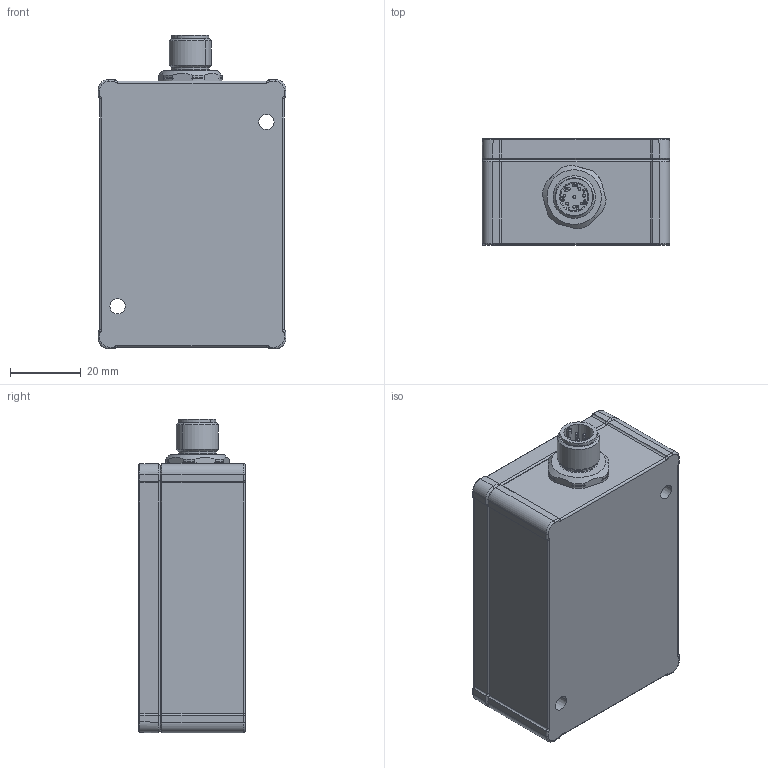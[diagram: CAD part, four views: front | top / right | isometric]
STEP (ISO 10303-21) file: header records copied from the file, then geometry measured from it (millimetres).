
FILE_DESCRIPTION (( 'STEP AP214' ), '1' );
FILE_NAME ('Gehäuse (Logo_ME) mit M12 Stecker_8pol.STEP', '2019-11-15T11:17:50', ( '' ), ( '' ), 'SwSTEP 2.0', 'SolidWorks 2019', '' );
FILE_SCHEMA (( 'AUTOMOTIVE_DESIGN' ));
Length unit declared in the file: millimetre
Products named in the file (5): Gehäuse (Logo_ME) mit M12 Stecker_8pol; Schraubenkopf; Gehäusewanne_Z0735343-05; ME Deckel mit Logo; 43-01099
Assembly tree (7 placements, depth 2):
  Gehäuse (Logo_ME) mit M12 Stecker_8pol
    Gehäusewanne_Z0735343-05
    Schraubenkopf  x4
    ME Deckel mit Logo
    43-01099
Bounding box: 53 x 30 x 88.5 mm (x, y, z)
Volume: 56054.1 mm3; surface area: 34879.1 mm2
Topology: 7 solids, 8 shells, 1431 faces, 3517 edges, 2150 vertices
Faces by surface type: plane 424, cylinder 384, bspline 366, cone 195, torus 50, sphere 12
Entity records: 71745 total; most frequent: CARTESIAN_POINT 31800, ORIENTED_EDGE 6712, DIRECTION 5501, EDGE_CURVE 3356, VERTEX_POINT 2078, AXIS2_PLACEMENT_3D 1981, LINE 1539, VECTOR 1539
